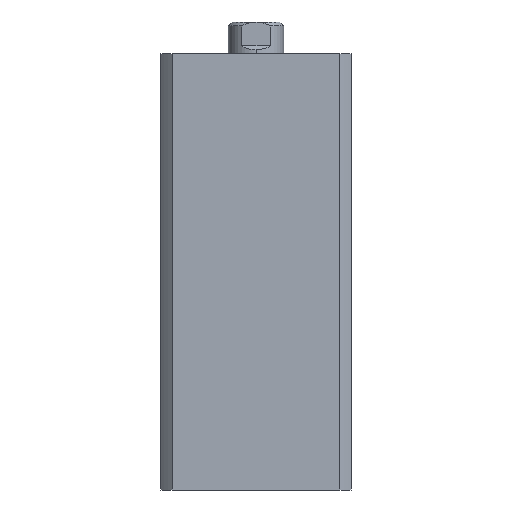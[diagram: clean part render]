
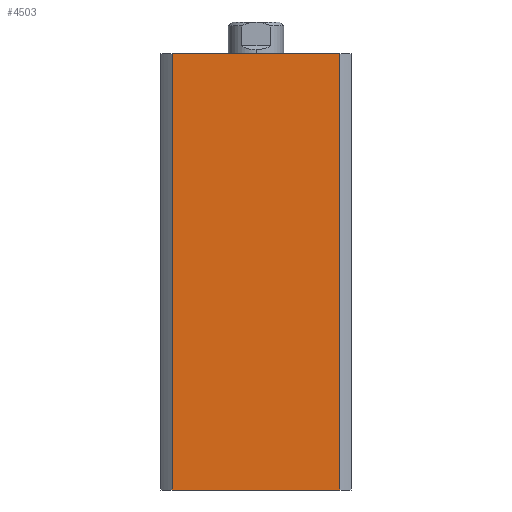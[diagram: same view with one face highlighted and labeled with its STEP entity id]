
A CAD part, left-side view. The second image highlights one B-rep face of the part: STEP entity #4503.
In plain terms, the highlighted planar face has unit normal (-1, 0, 0).
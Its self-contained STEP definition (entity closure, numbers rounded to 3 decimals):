
#423 = CARTESIAN_POINT ( 'NONE',  ( -24., -21.166, 0. ) ) ;
#479 = CARTESIAN_POINT ( 'NONE',  ( -24., 21.166, 0. ) ) ;
#535 = CARTESIAN_POINT ( 'NONE',  ( -24., -21.166, 110. ) ) ;
#556 = CARTESIAN_POINT ( 'NONE',  ( -24., 21.166, 110. ) ) ;
#1397 = ORIENTED_EDGE ( 'NONE', *, *, #2364, .T. ) ;
#1398 = ORIENTED_EDGE ( 'NONE', *, *, #2874, .F. ) ;
#1399 = ORIENTED_EDGE ( 'NONE', *, *, #2365, .F. ) ;
#2021 = LINE ( 'NONE', #3553, #2027 ) ;
#2025 = LINE ( 'NONE', #3552, #2029 ) ;
#2027 = VECTOR ( 'NONE', #3549, 1000. ) ;
#2028 = LINE ( 'NONE', #3558, #2031 ) ;
#2029 = VECTOR ( 'NONE', #3557, 1000. ) ;
#2031 = VECTOR ( 'NONE', #3559, 1000. ) ;
#2153 = LINE ( 'NONE', #3836, #2156 ) ;
#2156 = VECTOR ( 'NONE', #3837, 1000. ) ;
#2364 = EDGE_CURVE ( 'NONE', #5012, #4670, #2021, .T. ) ;
#2365 = EDGE_CURVE ( 'NONE', #4825, #4588, #2025, .T. ) ;
#2366 = EDGE_CURVE ( 'NONE', #4670, #4588, #2028, .T. ) ;
#2607 = FACE_OUTER_BOUND ( 'NONE', #4842, .T. ) ;
#2874 = EDGE_CURVE ( 'NONE', #5012, #4825, #2153, .T. ) ;
#3024 = ORIENTED_EDGE ( 'NONE', *, *, #2366, .T. ) ;
#3161 = AXIS2_PLACEMENT_3D ( 'NONE', #4374, #4382, #4383 ) ;
#3549 = DIRECTION ( 'NONE',  ( 0., 0., -1. ) ) ;
#3552 = CARTESIAN_POINT ( 'NONE',  ( -24., -21.166, 110. ) ) ;
#3553 = CARTESIAN_POINT ( 'NONE',  ( -24., 21.166, 110. ) ) ;
#3557 = DIRECTION ( 'NONE',  ( 0., 0., -1. ) ) ;
#3558 = CARTESIAN_POINT ( 'NONE',  ( -24., 0., 0. ) ) ;
#3559 = DIRECTION ( 'NONE',  ( 0., -1., 0. ) ) ;
#3836 = CARTESIAN_POINT ( 'NONE',  ( -24., 0., 110. ) ) ;
#3837 = DIRECTION ( 'NONE',  ( 0., -1., 0. ) ) ;
#4374 = CARTESIAN_POINT ( 'NONE',  ( -24., 0., 110. ) ) ;
#4378 = PLANE ( 'NONE',  #3161 ) ;
#4382 = DIRECTION ( 'NONE',  ( 1., 0., 0. ) ) ;
#4383 = DIRECTION ( 'NONE',  ( 0., 0., -1. ) ) ;
#4503 = ADVANCED_FACE ( 'NONE', ( #2607 ), #4378, .F. ) ;
#4588 = VERTEX_POINT ( 'NONE', #423 ) ;
#4670 = VERTEX_POINT ( 'NONE', #479 ) ;
#4825 = VERTEX_POINT ( 'NONE', #535 ) ;
#4842 = EDGE_LOOP ( 'NONE', ( #3024, #1399, #1398, #1397 ) ) ;
#5012 = VERTEX_POINT ( 'NONE', #556 ) ;
